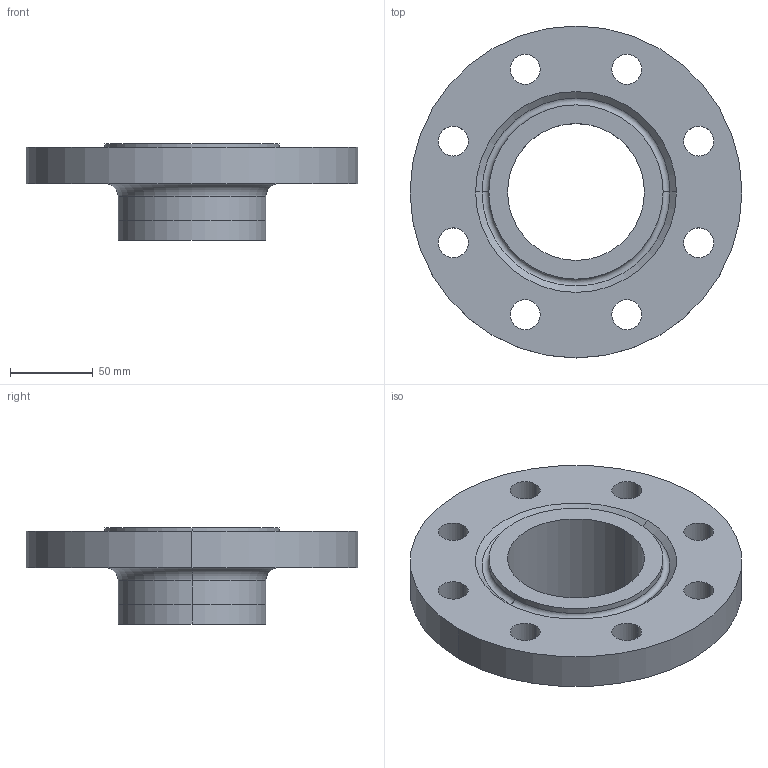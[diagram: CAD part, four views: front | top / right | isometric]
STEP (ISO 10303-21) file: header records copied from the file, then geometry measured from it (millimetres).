
FILE_DESCRIPTION (( 'STEP AP214' ), '1' );
FILE_NAME ('PN40 DN80 Type 11 - Type H Face.STEP', '2019-01-01T19:41:30', ( '' ), ( '' ), 'SwSTEP 2.0', 'SolidWorks 2019', '' );
FILE_SCHEMA (( 'AUTOMOTIVE_DESIGN' ));
Length unit declared in the file: millimetre
Products named in the file (1): PN40 DN80 Type 11 - Type H Face
Bounding box: 200 x 200 x 58 mm (x, y, z)
Volume: 561385.7 mm3; surface area: 97582.1 mm2
Topology: 1 solids, 1 shells, 38 faces, 92 edges, 58 vertices
Faces by surface type: cylinder 24, torus 6, cone 4, plane 4
Entity records: 1210 total; most frequent: DIRECTION 234, CARTESIAN_POINT 189, ORIENTED_EDGE 184, AXIS2_PLACEMENT_3D 103, EDGE_CURVE 92, CIRCLE 64, EDGE_LOOP 58, VERTEX_POINT 58
